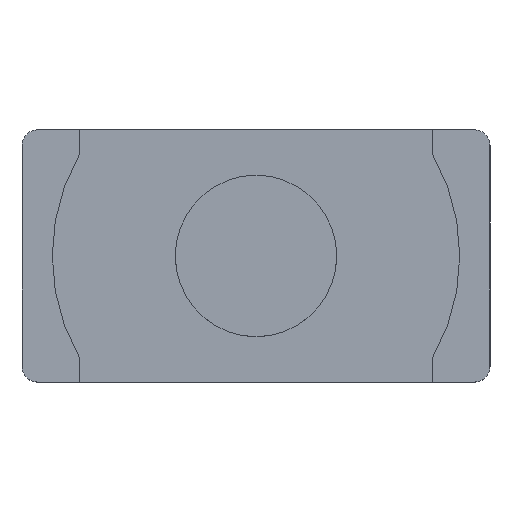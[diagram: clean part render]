
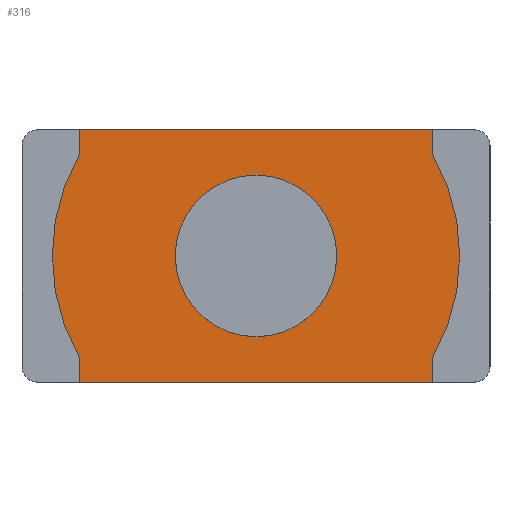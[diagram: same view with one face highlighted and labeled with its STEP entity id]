
A CAD part, top view. The second image highlights one B-rep face of the part: STEP entity #316.
In plain terms, the highlighted planar face has unit normal (0, 0, 1).
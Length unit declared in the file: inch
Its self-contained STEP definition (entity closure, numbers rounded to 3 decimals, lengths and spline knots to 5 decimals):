
#25 = CARTESIAN_POINT ( 'NONE',  ( -0.3445, 0.246, 0.079 ) ) ;
#26 = CIRCLE ( 'NONE', #276, 0.1575 ) ;
#30 = DIRECTION ( 'NONE',  ( 0., 0., 1. ) ) ;
#31 = VERTEX_POINT ( 'NONE', #229 ) ;
#36 = EDGE_LOOP ( 'NONE', ( #609, #689, #542, #95, #668, #583, #412, #286, #676 ) ) ;
#42 = CIRCLE ( 'NONE', #626, 0.1575 ) ;
#52 = EDGE_CURVE ( 'NONE', #493, #349, #42, .T. ) ;
#66 = DIRECTION ( 'NONE',  ( 0., 1., 0. ) ) ;
#71 = CARTESIAN_POINT ( 'NONE',  ( -0.4565, -0.246, 0.079 ) ) ;
#74 = DIRECTION ( 'NONE',  ( 0., 0., 1. ) ) ;
#95 = ORIENTED_EDGE ( 'NONE', *, *, #394, .F. ) ;
#110 = DIRECTION ( 'NONE',  ( 0., 0., -1. ) ) ;
#115 = EDGE_CURVE ( 'NONE', #223, #621, #123, .T. ) ;
#123 = LINE ( 'NONE', #624, #407 ) ;
#137 = CARTESIAN_POINT ( 'NONE',  ( 0., 0., 0.079 ) ) ;
#146 = CIRCLE ( 'NONE', #553, 0.3975 ) ;
#155 = DIRECTION ( 'NONE',  ( 0., 1., 0. ) ) ;
#188 = DIRECTION ( 'NONE',  ( 1., 0., 0. ) ) ;
#189 = FACE_OUTER_BOUND ( 'NONE', #36, .T. ) ;
#192 = CARTESIAN_POINT ( 'NONE',  ( -0.3975, 0., 0.079 ) ) ;
#193 = VERTEX_POINT ( 'NONE', #242 ) ;
#197 = CIRCLE ( 'NONE', #291, 0.3975 ) ;
#201 = LINE ( 'NONE', #574, #678 ) ;
#211 = VERTEX_POINT ( 'NONE', #414 ) ;
#214 = CARTESIAN_POINT ( 'NONE',  ( 0.1575, 0., 0.079 ) ) ;
#220 = VERTEX_POINT ( 'NONE', #253 ) ;
#223 = VERTEX_POINT ( 'NONE', #688 ) ;
#224 = VECTOR ( 'NONE', #66, 39.37008 ) ;
#229 = CARTESIAN_POINT ( 'NONE',  ( 0.3445, -0.19831, 0.079 ) ) ;
#231 = LINE ( 'NONE', #682, #587 ) ;
#236 = CARTESIAN_POINT ( 'NONE',  ( -0.1575, 0., 0.079 ) ) ;
#241 = DIRECTION ( 'NONE',  ( 1., 0., 0. ) ) ;
#242 = CARTESIAN_POINT ( 'NONE',  ( -0.3445, -0.246, 0.079 ) ) ;
#249 = DIRECTION ( 'NONE',  ( 0., 0., -1. ) ) ;
#253 = CARTESIAN_POINT ( 'NONE',  ( -0.3445, 0.19831, 0.079 ) ) ;
#255 = DIRECTION ( 'NONE',  ( 0., -1., 0. ) ) ;
#273 = VERTEX_POINT ( 'NONE', #590 ) ;
#276 = AXIS2_PLACEMENT_3D ( 'NONE', #137, #30, #471 ) ;
#286 = ORIENTED_EDGE ( 'NONE', *, *, #503, .F. ) ;
#291 = AXIS2_PLACEMENT_3D ( 'NONE', #544, #110, #434 ) ;
#306 = EDGE_CURVE ( 'NONE', #349, #493, #26, .T. ) ;
#312 = VERTEX_POINT ( 'NONE', #192 ) ;
#316 = ADVANCED_FACE ( 'NONE', ( #189, #358 ), #582, .T. ) ;
#330 = VECTOR ( 'NONE', #501, 39.37008 ) ;
#331 = CARTESIAN_POINT ( 'NONE',  ( -0.3445, -0.246, 0.079 ) ) ;
#338 = LINE ( 'NONE', #564, #224 ) ;
#349 = VERTEX_POINT ( 'NONE', #214 ) ;
#352 = CARTESIAN_POINT ( 'NONE',  ( 0., 0., 0.079 ) ) ;
#357 = CARTESIAN_POINT ( 'NONE',  ( 0., 0., 0.079 ) ) ;
#358 = FACE_BOUND ( 'NONE', #642, .T. ) ;
#369 = EDGE_CURVE ( 'NONE', #529, #312, #197, .T. ) ;
#379 = LINE ( 'NONE', #331, #701 ) ;
#394 = EDGE_CURVE ( 'NONE', #193, #529, #379, .T. ) ;
#407 = VECTOR ( 'NONE', #565, 39.37008 ) ;
#412 = ORIENTED_EDGE ( 'NONE', *, *, #598, .F. ) ;
#414 = CARTESIAN_POINT ( 'NONE',  ( 0.3445, -0.246, 0.079 ) ) ;
#434 = DIRECTION ( 'NONE',  ( 1., 0., 0. ) ) ;
#440 = EDGE_CURVE ( 'NONE', #220, #621, #338, .T. ) ;
#471 = DIRECTION ( 'NONE',  ( 1., 0., 0. ) ) ;
#475 = CARTESIAN_POINT ( 'NONE',  ( 0., 0., 0.079 ) ) ;
#481 = EDGE_CURVE ( 'NONE', #193, #211, #669, .T. ) ;
#490 = AXIS2_PLACEMENT_3D ( 'NONE', #475, #695, #641 ) ;
#493 = VERTEX_POINT ( 'NONE', #236 ) ;
#494 = AXIS2_PLACEMENT_3D ( 'NONE', #357, #640, #188 ) ;
#501 = DIRECTION ( 'NONE',  ( 1., 0., 0. ) ) ;
#503 = EDGE_CURVE ( 'NONE', #223, #273, #231, .T. ) ;
#514 = CARTESIAN_POINT ( 'NONE',  ( -0.3445, -0.19831, 0.079 ) ) ;
#516 = CIRCLE ( 'NONE', #494, 0.3975 ) ;
#529 = VERTEX_POINT ( 'NONE', #514 ) ;
#542 = ORIENTED_EDGE ( 'NONE', *, *, #369, .F. ) ;
#544 = CARTESIAN_POINT ( 'NONE',  ( 0., 0., 0.079 ) ) ;
#546 = EDGE_CURVE ( 'NONE', #312, #220, #516, .T. ) ;
#553 = AXIS2_PLACEMENT_3D ( 'NONE', #584, #249, #241 ) ;
#559 = EDGE_CURVE ( 'NONE', #31, #211, #201, .T. ) ;
#564 = CARTESIAN_POINT ( 'NONE',  ( -0.3445, 0.19831, 0.079 ) ) ;
#565 = DIRECTION ( 'NONE',  ( -1., 0., 0. ) ) ;
#574 = CARTESIAN_POINT ( 'NONE',  ( 0.3445, -0.246, 0.079 ) ) ;
#582 = PLANE ( 'NONE',  #490 ) ;
#583 = ORIENTED_EDGE ( 'NONE', *, *, #559, .F. ) ;
#584 = CARTESIAN_POINT ( 'NONE',  ( 0., 0., 0.079 ) ) ;
#587 = VECTOR ( 'NONE', #671, 39.37008 ) ;
#590 = CARTESIAN_POINT ( 'NONE',  ( 0.3445, 0.19831, 0.079 ) ) ;
#598 = EDGE_CURVE ( 'NONE', #273, #31, #146, .T. ) ;
#609 = ORIENTED_EDGE ( 'NONE', *, *, #440, .F. ) ;
#620 = DIRECTION ( 'NONE',  ( 1., 0., 0. ) ) ;
#621 = VERTEX_POINT ( 'NONE', #25 ) ;
#624 = CARTESIAN_POINT ( 'NONE',  ( -0.4565, 0.246, 0.079 ) ) ;
#626 = AXIS2_PLACEMENT_3D ( 'NONE', #352, #74, #620 ) ;
#640 = DIRECTION ( 'NONE',  ( 0., 0., -1. ) ) ;
#641 = DIRECTION ( 'NONE',  ( 1., 0., 0. ) ) ;
#642 = EDGE_LOOP ( 'NONE', ( #646, #693 ) ) ;
#646 = ORIENTED_EDGE ( 'NONE', *, *, #52, .F. ) ;
#668 = ORIENTED_EDGE ( 'NONE', *, *, #481, .T. ) ;
#669 = LINE ( 'NONE', #71, #330 ) ;
#671 = DIRECTION ( 'NONE',  ( 0., -1., 0. ) ) ;
#676 = ORIENTED_EDGE ( 'NONE', *, *, #115, .T. ) ;
#678 = VECTOR ( 'NONE', #255, 39.37008 ) ;
#682 = CARTESIAN_POINT ( 'NONE',  ( 0.3445, 0.19831, 0.079 ) ) ;
#688 = CARTESIAN_POINT ( 'NONE',  ( 0.3445, 0.246, 0.079 ) ) ;
#689 = ORIENTED_EDGE ( 'NONE', *, *, #546, .F. ) ;
#693 = ORIENTED_EDGE ( 'NONE', *, *, #306, .F. ) ;
#695 = DIRECTION ( 'NONE',  ( 0., 0., 1. ) ) ;
#701 = VECTOR ( 'NONE', #155, 39.37008 ) ;
